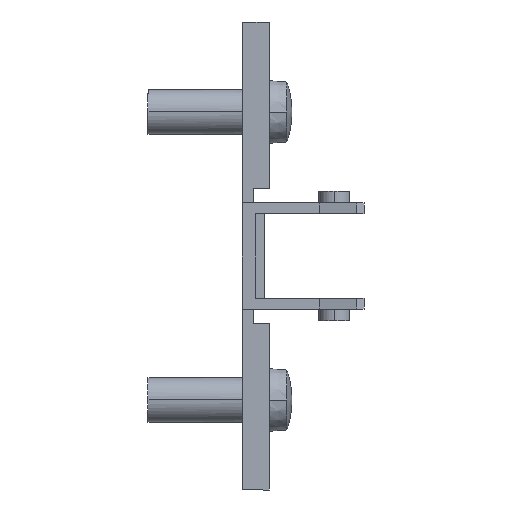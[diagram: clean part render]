
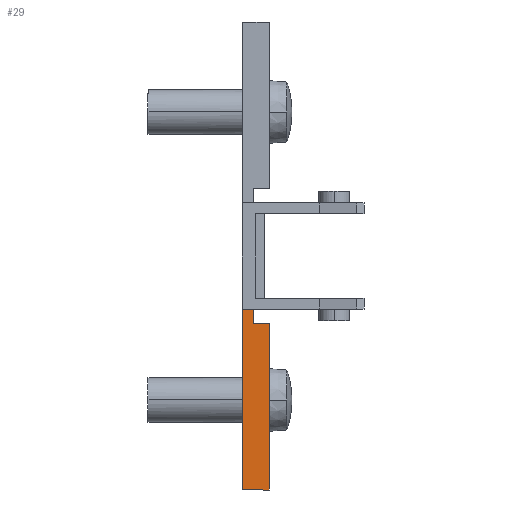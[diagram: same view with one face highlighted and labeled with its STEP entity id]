
A CAD part, front view. The second image highlights one B-rep face of the part: STEP entity #29.
In plain terms, the highlighted planar face has unit normal (0, -1, 0).
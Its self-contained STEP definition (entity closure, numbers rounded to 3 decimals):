
#29 = ADVANCED_FACE ( 'NONE', ( #1805 ), #917, .F. ) ;
#554 = CARTESIAN_POINT ( 'NONE',  ( 3., -9., -7.5 ) ) ;
#555 = DIRECTION ( 'NONE',  ( 0., 0., 1. ) ) ;
#726 = VERTEX_POINT ( 'NONE', #1312 ) ;
#727 = VERTEX_POINT ( 'NONE', #1313 ) ;
#756 = VERTEX_POINT ( 'NONE', #1342 ) ;
#757 = VERTEX_POINT ( 'NONE', #1343 ) ;
#823 = VERTEX_POINT ( 'NONE', #1409 ) ;
#826 = VERTEX_POINT ( 'NONE', #1412 ) ;
#917 = PLANE ( 'NONE',  #2629 ) ;
#920 = CARTESIAN_POINT ( 'NONE',  ( 1.2, -9., -5. ) ) ;
#926 = DIRECTION ( 'NONE',  ( 0., 1., 0. ) ) ;
#927 = DIRECTION ( 'NONE',  ( 0., 0., 1. ) ) ;
#1312 = CARTESIAN_POINT ( 'NONE',  ( 3., -9., -7.5 ) ) ;
#1313 = CARTESIAN_POINT ( 'NONE',  ( 3., -9., -26. ) ) ;
#1342 = CARTESIAN_POINT ( 'NONE',  ( 0., -9., -26. ) ) ;
#1343 = CARTESIAN_POINT ( 'NONE',  ( 0., -9., -5.9 ) ) ;
#1409 = CARTESIAN_POINT ( 'NONE',  ( 1.2, -9., -5.9 ) ) ;
#1412 = CARTESIAN_POINT ( 'NONE',  ( 1.2, -9., -7.5 ) ) ;
#1462 = CARTESIAN_POINT ( 'NONE',  ( 0., -9., -26. ) ) ;
#1463 = DIRECTION ( 'NONE',  ( 0., 0., -1. ) ) ;
#1502 = CARTESIAN_POINT ( 'NONE',  ( 1.2, -9., -5.9 ) ) ;
#1503 = DIRECTION ( 'NONE',  ( 1., 0., 0. ) ) ;
#1604 = DIRECTION ( 'NONE',  ( -1., 0., 0. ) ) ;
#1605 = CARTESIAN_POINT ( 'NONE',  ( 1.2, -9., -7.5 ) ) ;
#1660 = CARTESIAN_POINT ( 'NONE',  ( 1.2, -9., -5. ) ) ;
#1678 = DIRECTION ( 'NONE',  ( 0., 0., 1. ) ) ;
#1683 = CARTESIAN_POINT ( 'NONE',  ( 3., -9., -26. ) ) ;
#1713 = DIRECTION ( 'NONE',  ( 1., 0., 0. ) ) ;
#1753 = VECTOR ( 'NONE', #1503, 1000. ) ;
#1754 = LINE ( 'NONE', #1502, #1753 ) ;
#1786 = VECTOR ( 'NONE', #1463, 1000. ) ;
#1787 = LINE ( 'NONE', #1462, #1786 ) ;
#1805 = FACE_OUTER_BOUND ( 'NONE', #1847, .T. ) ;
#1847 = EDGE_LOOP ( 'NONE', ( #1907, #1906, #1926, #1929, #1931, #1998 ) ) ;
#1906 = ORIENTED_EDGE ( 'NONE', *, *, #2599, .T. ) ;
#1907 = ORIENTED_EDGE ( 'NONE', *, *, #2616, .F. ) ;
#1926 = ORIENTED_EDGE ( 'NONE', *, *, #2734, .T. ) ;
#1929 = ORIENTED_EDGE ( 'NONE', *, *, #3030, .T. ) ;
#1931 = ORIENTED_EDGE ( 'NONE', *, *, #2737, .T. ) ;
#1998 = ORIENTED_EDGE ( 'NONE', *, *, #2731, .T. ) ;
#2599 = EDGE_CURVE ( 'NONE', #757, #756, #1787, .T. ) ;
#2616 = EDGE_CURVE ( 'NONE', #757, #823, #1754, .T. ) ;
#2629 = AXIS2_PLACEMENT_3D ( 'NONE', #920, #926, #927 ) ;
#2731 = EDGE_CURVE ( 'NONE', #826, #823, #3533, .T. ) ;
#2734 = EDGE_CURVE ( 'NONE', #756, #727, #3171, .T. ) ;
#2737 = EDGE_CURVE ( 'NONE', #726, #826, #3173, .T. ) ;
#3030 = EDGE_CURVE ( 'NONE', #727, #726, #3246, .T. ) ;
#3169 = VECTOR ( 'NONE', #1713, 1000. ) ;
#3171 = LINE ( 'NONE', #1683, #3169 ) ;
#3172 = VECTOR ( 'NONE', #1604, 1000. ) ;
#3173 = LINE ( 'NONE', #1605, #3172 ) ;
#3176 = VECTOR ( 'NONE', #1678, 1000. ) ;
#3245 = VECTOR ( 'NONE', #555, 1000. ) ;
#3246 = LINE ( 'NONE', #554, #3245 ) ;
#3533 = LINE ( 'NONE', #1660, #3176 ) ;
